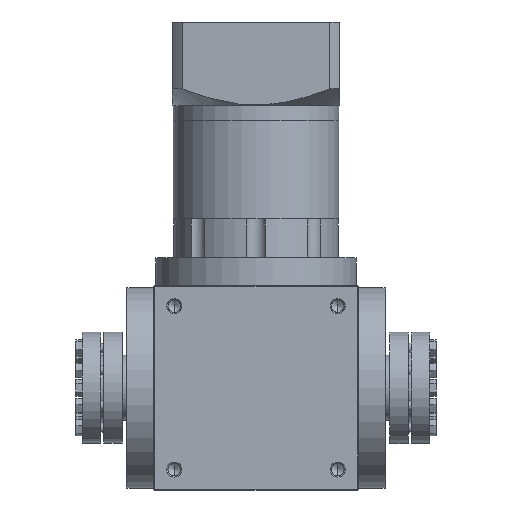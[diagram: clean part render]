
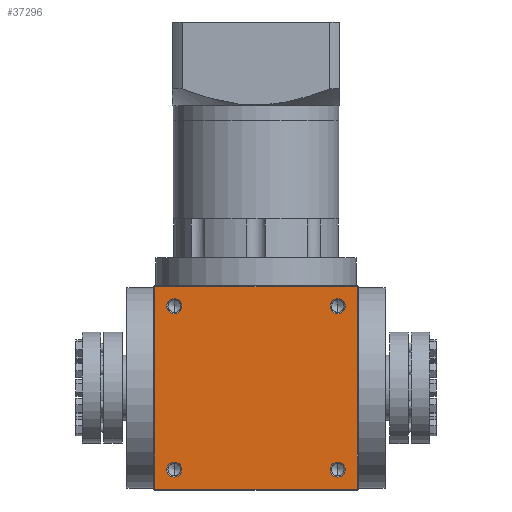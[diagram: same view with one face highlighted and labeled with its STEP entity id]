
A CAD part, front view. The second image highlights one B-rep face of the part: STEP entity #37296.
In plain terms, the highlighted planar face has unit normal (0, -1, 0).
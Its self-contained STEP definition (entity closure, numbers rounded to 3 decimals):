
#205 = EDGE_LOOP ( 'NONE', ( #13147, #26081 ) ) ;
#964 = DIRECTION ( 'NONE',  ( 0., -1., 0. ) ) ;
#2851 = CARTESIAN_POINT ( 'NONE',  ( -55., -55., 110. ) ) ;
#3583 = EDGE_CURVE ( 'NONE', #54190, #28546, #35468, .T. ) ;
#4780 = CARTESIAN_POINT ( 'NONE',  ( 54.5, -55., 110. ) ) ;
#5146 = CARTESIAN_POINT ( 'NONE',  ( -44., -55., 11. ) ) ;
#5256 = AXIS2_PLACEMENT_3D ( 'NONE', #46991, #20153, #51482 ) ;
#5810 = EDGE_LOOP ( 'NONE', ( #41735, #14936 ) ) ;
#5846 = LINE ( 'NONE', #34117, #16488 ) ;
#6513 = CARTESIAN_POINT ( 'NONE',  ( -55., -55., 0.5 ) ) ;
#6559 = LINE ( 'NONE', #6513, #27697 ) ;
#6971 = FACE_BOUND ( 'NONE', #5810, .T. ) ;
#7439 = DIRECTION ( 'NONE',  ( 0., 0., 1. ) ) ;
#7656 = CARTESIAN_POINT ( 'NONE',  ( 44., -55., 99. ) ) ;
#8167 = LINE ( 'NONE', #4780, #42619 ) ;
#8725 = CARTESIAN_POINT ( 'NONE',  ( 48.025, -55., 99. ) ) ;
#9343 = EDGE_CURVE ( 'NONE', #39963, #13229, #13921, .T. ) ;
#9562 = DIRECTION ( 'NONE',  ( 0., -1., 0. ) ) ;
#9583 = CIRCLE ( 'NONE', #45896, 4.025 ) ;
#9719 = DIRECTION ( 'NONE',  ( 1., 0., 0. ) ) ;
#9943 = CIRCLE ( 'NONE', #17484, 4.025 ) ;
#10025 = AXIS2_PLACEMENT_3D ( 'NONE', #7656, #39134, #12188 ) ;
#10144 = EDGE_LOOP ( 'NONE', ( #41394, #37540, #49027, #13635 ) ) ;
#10304 = VERTEX_POINT ( 'NONE', #52296 ) ;
#10748 = DIRECTION ( 'NONE',  ( 0., -1., 0. ) ) ;
#10874 = EDGE_LOOP ( 'NONE', ( #36206, #43330 ) ) ;
#11002 = CARTESIAN_POINT ( 'NONE',  ( -39.975, -55., 11. ) ) ;
#11469 = VERTEX_POINT ( 'NONE', #22614 ) ;
#11879 = DIRECTION ( 'NONE',  ( 0., 0., 1. ) ) ;
#12188 = DIRECTION ( 'NONE',  ( 1., 0., 0. ) ) ;
#13147 = ORIENTED_EDGE ( 'NONE', *, *, #54501, .F. ) ;
#13229 = VERTEX_POINT ( 'NONE', #55783 ) ;
#13635 = ORIENTED_EDGE ( 'NONE', *, *, #49507, .F. ) ;
#13693 = DIRECTION ( 'NONE',  ( 0., 0., -1. ) ) ;
#13921 = CIRCLE ( 'NONE', #41105, 4.025 ) ;
#14936 = ORIENTED_EDGE ( 'NONE', *, *, #32625, .F. ) ;
#15524 = DIRECTION ( 'NONE',  ( 1., 0., 0. ) ) ;
#15943 = EDGE_CURVE ( 'NONE', #22004, #10304, #51043, .T. ) ;
#16001 = AXIS2_PLACEMENT_3D ( 'NONE', #2851, #34423, #7439 ) ;
#16336 = CARTESIAN_POINT ( 'NONE',  ( -54.5, -55., 109.5 ) ) ;
#16363 = PLANE ( 'NONE',  #16001 ) ;
#16488 = VECTOR ( 'NONE', #11879, 1000. ) ;
#16492 = CARTESIAN_POINT ( 'NONE',  ( -55., -55., 109.5 ) ) ;
#16744 = EDGE_LOOP ( 'NONE', ( #45007, #26389 ) ) ;
#17484 = AXIS2_PLACEMENT_3D ( 'NONE', #37681, #10748, #42199 ) ;
#19012 = FACE_OUTER_BOUND ( 'NONE', #10144, .T. ) ;
#20153 = DIRECTION ( 'NONE',  ( 0., -1., 0. ) ) ;
#20164 = DIRECTION ( 'NONE',  ( -1., 0., 0. ) ) ;
#20523 = VERTEX_POINT ( 'NONE', #11002 ) ;
#22004 = VERTEX_POINT ( 'NONE', #27935 ) ;
#22614 = CARTESIAN_POINT ( 'NONE',  ( 39.975, -55., 99. ) ) ;
#23997 = CARTESIAN_POINT ( 'NONE',  ( 39.975, -55., 11. ) ) ;
#24109 = EDGE_CURVE ( 'NONE', #20523, #47377, #29508, .T. ) ;
#24346 = DIRECTION ( 'NONE',  ( 0., -1., 0. ) ) ;
#25245 = VERTEX_POINT ( 'NONE', #55589 ) ;
#26081 = ORIENTED_EDGE ( 'NONE', *, *, #9343, .F. ) ;
#26389 = ORIENTED_EDGE ( 'NONE', *, *, #52957, .F. ) ;
#26917 = AXIS2_PLACEMENT_3D ( 'NONE', #36533, #9562, #41029 ) ;
#26953 = CARTESIAN_POINT ( 'NONE',  ( 44., -55., 11. ) ) ;
#27697 = VECTOR ( 'NONE', #20164, 1000. ) ;
#27935 = CARTESIAN_POINT ( 'NONE',  ( -39.975, -55., 99. ) ) ;
#27993 = CARTESIAN_POINT ( 'NONE',  ( -44., -55., 99. ) ) ;
#28546 = VERTEX_POINT ( 'NONE', #40666 ) ;
#28798 = AXIS2_PLACEMENT_3D ( 'NONE', #5146, #36670, #9719 ) ;
#29147 = EDGE_CURVE ( 'NONE', #37872, #54190, #5846, .T. ) ;
#29508 = CIRCLE ( 'NONE', #5256, 4.025 ) ;
#29510 = FACE_BOUND ( 'NONE', #10874, .T. ) ;
#30894 = VERTEX_POINT ( 'NONE', #8725 ) ;
#31474 = DIRECTION ( 'NONE',  ( 1., 0., 0. ) ) ;
#32548 = DIRECTION ( 'NONE',  ( 1., 0., 0. ) ) ;
#32625 = EDGE_CURVE ( 'NONE', #10304, #22004, #9583, .T. ) ;
#34053 = VECTOR ( 'NONE', #15524, 1000. ) ;
#34117 = CARTESIAN_POINT ( 'NONE',  ( -54.5, -55., 110. ) ) ;
#34318 = EDGE_CURVE ( 'NONE', #25245, #37872, #6559, .T. ) ;
#34423 = DIRECTION ( 'NONE',  ( 0., 1., 0. ) ) ;
#35468 = LINE ( 'NONE', #16492, #34053 ) ;
#36206 = ORIENTED_EDGE ( 'NONE', *, *, #24109, .F. ) ;
#36533 = CARTESIAN_POINT ( 'NONE',  ( 44., -55., 11. ) ) ;
#36670 = DIRECTION ( 'NONE',  ( 0., -1., 0. ) ) ;
#37296 = ADVANCED_FACE ( 'NONE', ( #41480, #53380, #6971, #29510, #19012 ), #16363, .F. ) ;
#37540 = ORIENTED_EDGE ( 'NONE', *, *, #29147, .F. ) ;
#37681 = CARTESIAN_POINT ( 'NONE',  ( 44., -55., 99. ) ) ;
#37872 = VERTEX_POINT ( 'NONE', #39461 ) ;
#38026 = EDGE_CURVE ( 'NONE', #47377, #20523, #43486, .T. ) ;
#39092 = CIRCLE ( 'NONE', #10025, 4.025 ) ;
#39134 = DIRECTION ( 'NONE',  ( 0., -1., 0. ) ) ;
#39461 = CARTESIAN_POINT ( 'NONE',  ( -54.5, -55., 0.5 ) ) ;
#39772 = EDGE_CURVE ( 'NONE', #30894, #11469, #39092, .T. ) ;
#39963 = VERTEX_POINT ( 'NONE', #23997 ) ;
#40666 = CARTESIAN_POINT ( 'NONE',  ( 54.5, -55., 109.5 ) ) ;
#41029 = DIRECTION ( 'NONE',  ( 1., 0., 0. ) ) ;
#41105 = AXIS2_PLACEMENT_3D ( 'NONE', #26953, #58393, #31474 ) ;
#41394 = ORIENTED_EDGE ( 'NONE', *, *, #3583, .F. ) ;
#41480 = FACE_BOUND ( 'NONE', #205, .T. ) ;
#41735 = ORIENTED_EDGE ( 'NONE', *, *, #15943, .F. ) ;
#42199 = DIRECTION ( 'NONE',  ( 1., 0., 0. ) ) ;
#42619 = VECTOR ( 'NONE', #13693, 1000. ) ;
#43330 = ORIENTED_EDGE ( 'NONE', *, *, #38026, .F. ) ;
#43486 = CIRCLE ( 'NONE', #28798, 4.025 ) ;
#45007 = ORIENTED_EDGE ( 'NONE', *, *, #39772, .F. ) ;
#45896 = AXIS2_PLACEMENT_3D ( 'NONE', #27993, #964, #32548 ) ;
#46991 = CARTESIAN_POINT ( 'NONE',  ( -44., -55., 11. ) ) ;
#47377 = VERTEX_POINT ( 'NONE', #48641 ) ;
#48641 = CARTESIAN_POINT ( 'NONE',  ( -48.025, -55., 11. ) ) ;
#49027 = ORIENTED_EDGE ( 'NONE', *, *, #34318, .F. ) ;
#49507 = EDGE_CURVE ( 'NONE', #28546, #25245, #8167, .T. ) ;
#51043 = CIRCLE ( 'NONE', #52766, 4.025 ) ;
#51176 = CARTESIAN_POINT ( 'NONE',  ( -44., -55., 99. ) ) ;
#51482 = DIRECTION ( 'NONE',  ( 1., 0., 0. ) ) ;
#52296 = CARTESIAN_POINT ( 'NONE',  ( -48.025, -55., 99. ) ) ;
#52766 = AXIS2_PLACEMENT_3D ( 'NONE', #51176, #24346, #55738 ) ;
#52957 = EDGE_CURVE ( 'NONE', #11469, #30894, #9943, .T. ) ;
#53380 = FACE_BOUND ( 'NONE', #16744, .T. ) ;
#54190 = VERTEX_POINT ( 'NONE', #16336 ) ;
#54197 = CIRCLE ( 'NONE', #26917, 4.025 ) ;
#54501 = EDGE_CURVE ( 'NONE', #13229, #39963, #54197, .T. ) ;
#55589 = CARTESIAN_POINT ( 'NONE',  ( 54.5, -55., 0.5 ) ) ;
#55738 = DIRECTION ( 'NONE',  ( 1., 0., 0. ) ) ;
#55783 = CARTESIAN_POINT ( 'NONE',  ( 48.025, -55., 11. ) ) ;
#58393 = DIRECTION ( 'NONE',  ( 0., -1., 0. ) ) ;
